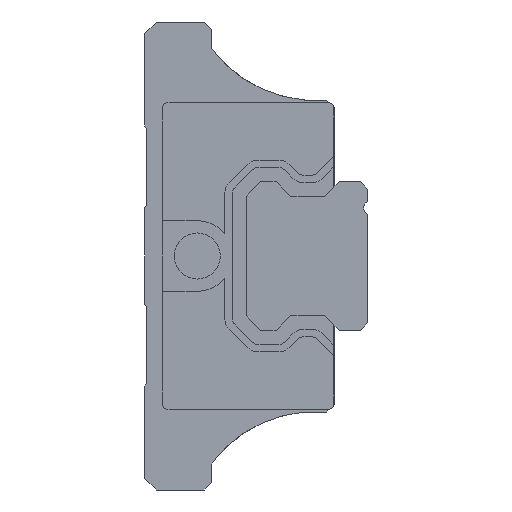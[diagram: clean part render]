
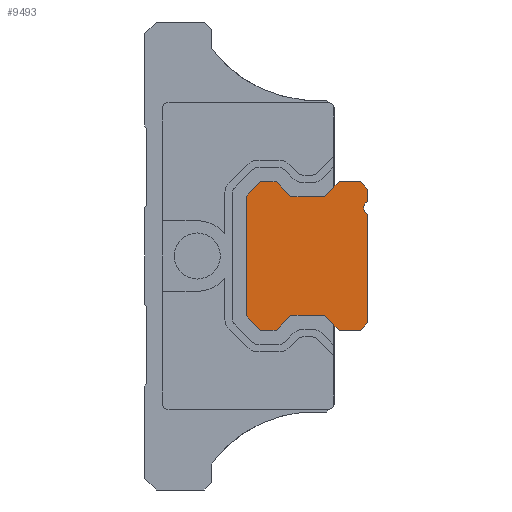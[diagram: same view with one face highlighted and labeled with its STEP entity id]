
A CAD part, left-side view. The second image highlights one B-rep face of the part: STEP entity #9493.
In plain terms, the highlighted planar face has unit normal (-1, 0, 0).
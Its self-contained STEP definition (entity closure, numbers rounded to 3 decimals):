
#56 = DIRECTION ( 'NONE',  ( 0., -1., 0. ) ) ;
#498 = AXIS2_PLACEMENT_3D ( 'NONE', #8753, #12368, #22339 ) ;
#641 = VECTOR ( 'NONE', #12799, 1000. ) ;
#644 = CARTESIAN_POINT ( 'NONE',  ( 0., 10.3, 8. ) ) ;
#969 = DIRECTION ( 'NONE',  ( 0., -1., 0. ) ) ;
#1066 = DIRECTION ( 'NONE',  ( 0., 1., 0. ) ) ;
#1374 = VECTOR ( 'NONE', #4951, 1000. ) ;
#1495 = CARTESIAN_POINT ( 'NONE',  ( 0., 0., 5.634 ) ) ;
#1662 = VECTOR ( 'NONE', #24010, 1000. ) ;
#1725 = EDGE_CURVE ( 'NONE', #12279, #8167, #8723, .T. ) ;
#2173 = VECTOR ( 'NONE', #12101, 1000. ) ;
#2731 = CARTESIAN_POINT ( 'NONE',  ( 0., 16.3, -8.071 ) ) ;
#3216 = ORIENTED_EDGE ( 'NONE', *, *, #17690, .F. ) ;
#3305 = CARTESIAN_POINT ( 'NONE',  ( 0., 10.3, 8. ) ) ;
#3396 = VERTEX_POINT ( 'NONE', #4999 ) ;
#3454 = VECTOR ( 'NONE', #13428, 1000. ) ;
#3494 = VERTEX_POINT ( 'NONE', #7367 ) ;
#3517 = CARTESIAN_POINT ( 'NONE',  ( 0., 14.371, -10. ) ) ;
#3575 = CARTESIAN_POINT ( 'NONE',  ( 0., 3.8, -10. ) ) ;
#3761 = VERTEX_POINT ( 'NONE', #1495 ) ;
#4064 = CARTESIAN_POINT ( 'NONE',  ( 0., 12.3, -10. ) ) ;
#4397 = VERTEX_POINT ( 'NONE', #10464 ) ;
#4419 = VECTOR ( 'NONE', #8132, 1000. ) ;
#4422 = LINE ( 'NONE', #4064, #4419 ) ;
#4893 = EDGE_CURVE ( 'NONE', #9355, #6450, #9262, .T. ) ;
#4910 = CARTESIAN_POINT ( 'NONE',  ( 0., 1., 10. ) ) ;
#4951 = DIRECTION ( 'NONE',  ( 0., 0., -1. ) ) ;
#4999 = CARTESIAN_POINT ( 'NONE',  ( 0., 3.8, 10. ) ) ;
#5053 = EDGE_CURVE ( 'NONE', #6450, #7126, #19851, .T. ) ;
#5074 = LINE ( 'NONE', #10763, #1374 ) ;
#5393 = DIRECTION ( 'NONE',  ( 0., 1., 0. ) ) ;
#5442 = ORIENTED_EDGE ( 'NONE', *, *, #5053, .F. ) ;
#5818 = CARTESIAN_POINT ( 'NONE',  ( 0., 0., 9. ) ) ;
#5865 = CARTESIAN_POINT ( 'NONE',  ( 0., 0., 9. ) ) ;
#5996 = LINE ( 'NONE', #5865, #3454 ) ;
#6027 = ORIENTED_EDGE ( 'NONE', *, *, #4893, .F. ) ;
#6325 = LINE ( 'NONE', #13887, #10815 ) ;
#6356 = LINE ( 'NONE', #11568, #9754 ) ;
#6450 = VERTEX_POINT ( 'NONE', #17839 ) ;
#6459 = CARTESIAN_POINT ( 'NONE',  ( 0., 5.8, 8. ) ) ;
#6584 = DIRECTION ( 'NONE',  ( 0., -0.707, 0.707 ) ) ;
#6805 = EDGE_CURVE ( 'NONE', #21721, #20454, #19801, .T. ) ;
#7126 = VERTEX_POINT ( 'NONE', #21378 ) ;
#7367 = CARTESIAN_POINT ( 'NONE',  ( 0., 12.3, -10. ) ) ;
#7374 = LINE ( 'NONE', #3517, #641 ) ;
#7424 = VECTOR ( 'NONE', #24227, 1000. ) ;
#7978 = VECTOR ( 'NONE', #6584, 1000. ) ;
#8113 = ORIENTED_EDGE ( 'NONE', *, *, #18302, .F. ) ;
#8132 = DIRECTION ( 'NONE',  ( 0., 1., 0. ) ) ;
#8167 = VERTEX_POINT ( 'NONE', #5818 ) ;
#8473 = CARTESIAN_POINT ( 'NONE',  ( 0., 1., 10. ) ) ;
#8498 = CARTESIAN_POINT ( 'NONE',  ( 0., 5.8, -8. ) ) ;
#8661 = EDGE_CURVE ( 'NONE', #3494, #11235, #4422, .T. ) ;
#8723 = LINE ( 'NONE', #4910, #2173 ) ;
#8753 = CARTESIAN_POINT ( 'NONE',  ( 0., -0.5, 6.5 ) ) ;
#9262 = LINE ( 'NONE', #3575, #7424 ) ;
#9305 = VERTEX_POINT ( 'NONE', #14765 ) ;
#9355 = VERTEX_POINT ( 'NONE', #10662 ) ;
#9483 = EDGE_LOOP ( 'NONE', ( #3216, #22852, #8113, #17790, #19292, #5442, #6027, #9964, #10300, #20125, #9903, #9962, #18162, #20978, #14309, #16419, #16457, #14526 ) ) ;
#9492 = LINE ( 'NONE', #17084, #24559 ) ;
#9493 = ADVANCED_FACE ( 'NONE', ( #11649 ), #13138, .F. ) ;
#9624 = EDGE_CURVE ( 'NONE', #4397, #20361, #6325, .T. ) ;
#9727 = EDGE_CURVE ( 'NONE', #3761, #9305, #20744, .T. ) ;
#9754 = VECTOR ( 'NONE', #17672, 1000. ) ;
#9903 = ORIENTED_EDGE ( 'NONE', *, *, #9727, .T. ) ;
#9962 = ORIENTED_EDGE ( 'NONE', *, *, #18438, .F. ) ;
#9964 = ORIENTED_EDGE ( 'NONE', *, *, #14334, .F. ) ;
#10157 = LINE ( 'NONE', #23625, #7978 ) ;
#10159 = VECTOR ( 'NONE', #11295, 1000. ) ;
#10300 = ORIENTED_EDGE ( 'NONE', *, *, #6805, .F. ) ;
#10464 = CARTESIAN_POINT ( 'NONE',  ( 0., 14.371, 10. ) ) ;
#10628 = EDGE_CURVE ( 'NONE', #3761, #21721, #5074, .T. ) ;
#10662 = CARTESIAN_POINT ( 'NONE',  ( 0., 3.8, -10. ) ) ;
#10670 = LINE ( 'NONE', #19786, #13339 ) ;
#10763 = CARTESIAN_POINT ( 'NONE',  ( 0., 0., 5.634 ) ) ;
#10791 = VERTEX_POINT ( 'NONE', #3305 ) ;
#10814 = CARTESIAN_POINT ( 'NONE',  ( 0., 12.3, 10. ) ) ;
#10815 = VECTOR ( 'NONE', #969, 1000. ) ;
#10881 = VERTEX_POINT ( 'NONE', #14964 ) ;
#11216 = AXIS2_PLACEMENT_3D ( 'NONE', #22741, #20737, #19282 ) ;
#11235 = VERTEX_POINT ( 'NONE', #15740 ) ;
#11295 = DIRECTION ( 'NONE',  ( 0., -0.707, 0.707 ) ) ;
#11568 = CARTESIAN_POINT ( 'NONE',  ( 0., 10.3, -8. ) ) ;
#11649 = FACE_OUTER_BOUND ( 'NONE', #9483, .T. ) ;
#11876 = EDGE_CURVE ( 'NONE', #10791, #14444, #21885, .T. ) ;
#12101 = DIRECTION ( 'NONE',  ( 0., -0.707, -0.707 ) ) ;
#12169 = DIRECTION ( 'NONE',  ( 0., -1., 0. ) ) ;
#12173 = VECTOR ( 'NONE', #1066, 1000. ) ;
#12279 = VERTEX_POINT ( 'NONE', #8473 ) ;
#12368 = DIRECTION ( 'NONE',  ( 1., 0., 0. ) ) ;
#12768 = CARTESIAN_POINT ( 'NONE',  ( 0., 16.3, 8.071 ) ) ;
#12799 = DIRECTION ( 'NONE',  ( 0., 0.707, 0.707 ) ) ;
#12813 = LINE ( 'NONE', #22420, #15426 ) ;
#12966 = CARTESIAN_POINT ( 'NONE',  ( 0., 12.3, 10. ) ) ;
#13138 = PLANE ( 'NONE',  #11216 ) ;
#13339 = VECTOR ( 'NONE', #22000, 1000. ) ;
#13428 = DIRECTION ( 'NONE',  ( 0., 0., -1. ) ) ;
#13463 = CARTESIAN_POINT ( 'NONE',  ( 0., 0., -9. ) ) ;
#13887 = CARTESIAN_POINT ( 'NONE',  ( 0., 14.371, 10. ) ) ;
#14172 = LINE ( 'NONE', #10814, #1662 ) ;
#14258 = EDGE_CURVE ( 'NONE', #3396, #12279, #9492, .T. ) ;
#14309 = ORIENTED_EDGE ( 'NONE', *, *, #21484, .F. ) ;
#14334 = EDGE_CURVE ( 'NONE', #20454, #9355, #12813, .T. ) ;
#14444 = VERTEX_POINT ( 'NONE', #6459 ) ;
#14526 = ORIENTED_EDGE ( 'NONE', *, *, #9624, .F. ) ;
#14765 = CARTESIAN_POINT ( 'NONE',  ( 0., 0., 7.366 ) ) ;
#14964 = CARTESIAN_POINT ( 'NONE',  ( 0., 16.3, 8.071 ) ) ;
#15426 = VECTOR ( 'NONE', #5393, 1000. ) ;
#15570 = CARTESIAN_POINT ( 'NONE',  ( 0., 0., -9. ) ) ;
#15740 = CARTESIAN_POINT ( 'NONE',  ( 0., 14.371, -10. ) ) ;
#16419 = ORIENTED_EDGE ( 'NONE', *, *, #11876, .F. ) ;
#16457 = ORIENTED_EDGE ( 'NONE', *, *, #20909, .F. ) ;
#16819 = VERTEX_POINT ( 'NONE', #2731 ) ;
#17084 = CARTESIAN_POINT ( 'NONE',  ( 0., 3.8, 10. ) ) ;
#17268 = VECTOR ( 'NONE', #12169, 1000. ) ;
#17672 = DIRECTION ( 'NONE',  ( 0., 0.707, -0.707 ) ) ;
#17690 = EDGE_CURVE ( 'NONE', #10881, #4397, #17785, .T. ) ;
#17785 = LINE ( 'NONE', #12768, #10159 ) ;
#17790 = ORIENTED_EDGE ( 'NONE', *, *, #8661, .F. ) ;
#17839 = CARTESIAN_POINT ( 'NONE',  ( 0., 5.8, -8. ) ) ;
#18162 = ORIENTED_EDGE ( 'NONE', *, *, #1725, .F. ) ;
#18302 = EDGE_CURVE ( 'NONE', #11235, #16819, #7374, .T. ) ;
#18438 = EDGE_CURVE ( 'NONE', #8167, #9305, #5996, .T. ) ;
#18442 = EDGE_CURVE ( 'NONE', #7126, #3494, #6356, .T. ) ;
#18545 = EDGE_CURVE ( 'NONE', #16819, #10881, #10670, .T. ) ;
#19282 = DIRECTION ( 'NONE',  ( 0., 0., -1. ) ) ;
#19292 = ORIENTED_EDGE ( 'NONE', *, *, #18442, .F. ) ;
#19786 = CARTESIAN_POINT ( 'NONE',  ( 0., 16.3, -8.071 ) ) ;
#19801 = LINE ( 'NONE', #15570, #21815 ) ;
#19851 = LINE ( 'NONE', #8498, #12173 ) ;
#20125 = ORIENTED_EDGE ( 'NONE', *, *, #10628, .F. ) ;
#20361 = VERTEX_POINT ( 'NONE', #12966 ) ;
#20454 = VERTEX_POINT ( 'NONE', #23201 ) ;
#20737 = DIRECTION ( 'NONE',  ( 1., 0., 0. ) ) ;
#20744 = CIRCLE ( 'NONE', #498, 1. ) ;
#20909 = EDGE_CURVE ( 'NONE', #20361, #10791, #14172, .T. ) ;
#20978 = ORIENTED_EDGE ( 'NONE', *, *, #14258, .F. ) ;
#21286 = DIRECTION ( 'NONE',  ( 0., 0.707, -0.707 ) ) ;
#21378 = CARTESIAN_POINT ( 'NONE',  ( 0., 10.3, -8. ) ) ;
#21484 = EDGE_CURVE ( 'NONE', #14444, #3396, #10157, .T. ) ;
#21721 = VERTEX_POINT ( 'NONE', #13463 ) ;
#21815 = VECTOR ( 'NONE', #21286, 1000. ) ;
#21885 = LINE ( 'NONE', #644, #17268 ) ;
#22000 = DIRECTION ( 'NONE',  ( 0., 0., 1. ) ) ;
#22339 = DIRECTION ( 'NONE',  ( 0., 0., -1. ) ) ;
#22420 = CARTESIAN_POINT ( 'NONE',  ( 0., 1., -10. ) ) ;
#22741 = CARTESIAN_POINT ( 'NONE',  ( 0., -0.5, 6.5 ) ) ;
#22852 = ORIENTED_EDGE ( 'NONE', *, *, #18545, .F. ) ;
#23201 = CARTESIAN_POINT ( 'NONE',  ( 0., 1., -10. ) ) ;
#23625 = CARTESIAN_POINT ( 'NONE',  ( 0., 5.8, 8. ) ) ;
#24010 = DIRECTION ( 'NONE',  ( 0., -0.707, -0.707 ) ) ;
#24227 = DIRECTION ( 'NONE',  ( 0., 0.707, 0.707 ) ) ;
#24559 = VECTOR ( 'NONE', #56, 1000. ) ;
